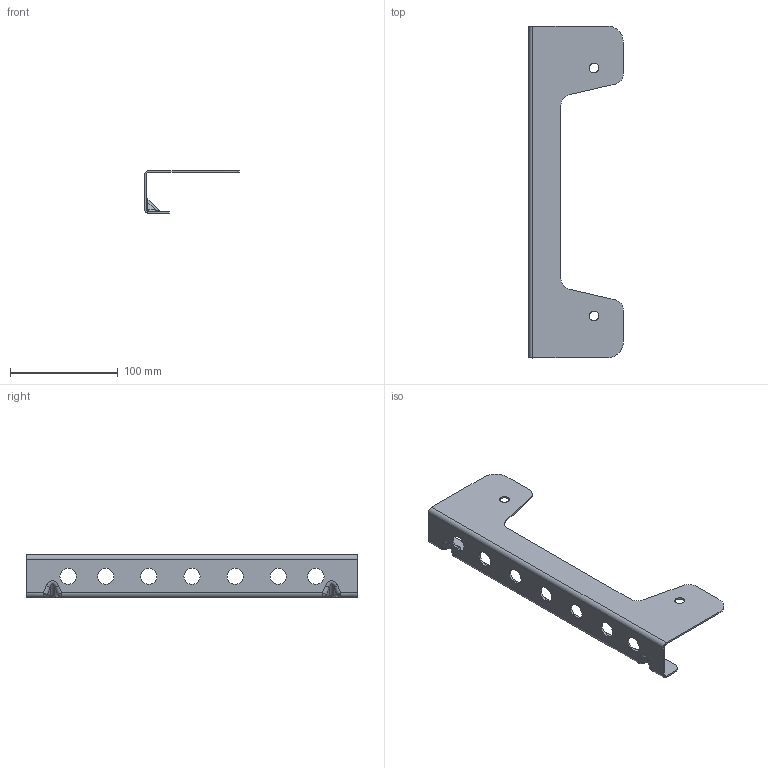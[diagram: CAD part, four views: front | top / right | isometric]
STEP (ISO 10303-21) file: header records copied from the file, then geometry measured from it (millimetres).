
FILE_DESCRIPTION(('CATIA V5 STEP Exchange'),'2;1');
FILE_NAME('D:\杨逍（新）\06-李燕龙\2023.1.9-G3新开件2D图纸-李燕龙\钣金单件图纸\SHT0015288-高配前支撑钣金\SHT0015288.stp','2023-01-11T06:32:02+00:00',('none'),('none'),'CATIA Version 5 Release 20 GA (IN-10)','CATIA V5 STEP AP214','none');
FILE_SCHEMA(('AUTOMOTIVE_DESIGN { 1 0 10303 214 1 1 1 1 }'));
Length unit declared in the file: millimetre
Products named in the file (1): Part60
Bounding box: 88 x 308 x 39.5 mm (x, y, z)
Volume: 45224.1 mm3; surface area: 62342.4 mm2
Topology: 1 solids, 1 shells, 112 faces, 298 edges, 172 vertices
Faces by surface type: cylinder 64, plane 24, sphere 16, bspline 8
Entity records: 5047 total; most frequent: CARTESIAN_POINT 2549, ORIENTED_EDGE 564, DIRECTION 394, EDGE_CURVE 282, AXIS2_PLACEMENT_3D 175, VERTEX_POINT 172, EDGE_LOOP 130, VECTOR 123
